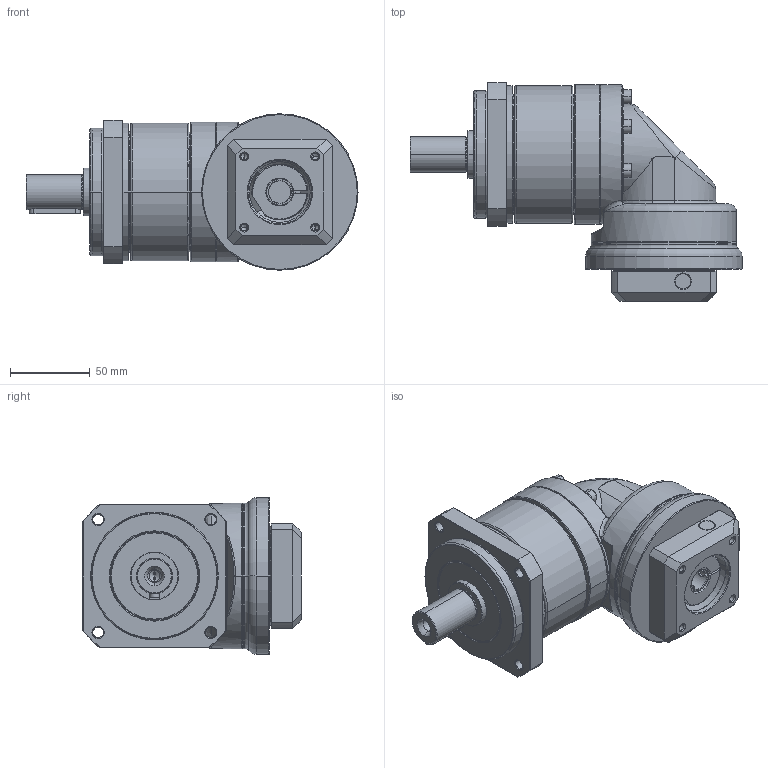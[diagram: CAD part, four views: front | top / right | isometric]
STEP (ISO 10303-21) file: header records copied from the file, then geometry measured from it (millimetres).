
FILE_DESCRIPTION((''),'2;1');
FILE_NAME('PA2R-090_1ST_14-P0411300101_ASM','2016-05-12T',('d01943'),(''),'PRO/ENGINEER BY PARAMETRIC TECHNOLOGY CORPORATION, 2008410','PRO/ENGINEER BY PARAMETRIC TECHNOLOGY CORPORATION, 2008410','');
FILE_SCHEMA(('CONFIG_CONTROL_DESIGN'));
Length unit declared in the file: millimetre
Products named in the file (12): P1327310001; P0250300001; P0350300001; P1349300001; P1017300001; P0713300001; P0503300005; P1350300001; P0411300101; P1702300001; 2111BA05025; PA2R-090_1ST_14-P0411300101_ASM
Assembly tree (16 placements, depth 2):
  PA2R-090_1ST_14-P0411300101_ASM
    P1327310001
    P0250300001
    P0350300001
    P1349300001
    P1017300001
    P0713300001
    P0503300005
    P1350300001
    P0411300101
    P1702300001
    2111BA05025  x6
Bounding box: 208 x 137 x 98 mm (x, y, z)
Volume: 700144.6 mm3; surface area: 181522.7 mm2
Topology: 16 solids, 16 shells, 817 faces, 1801 edges, 1042 vertices
Faces by surface type: cylinder 250, cone 238, plane 201, torus 96, bspline 32
Entity records: 23723 total; most frequent: CARTESIAN_POINT 9001, DIRECTION 3261, ORIENTED_EDGE 2850, EDGE_CURVE 1425, AXIS2_PLACEMENT_3D 1370, VERTEX_POINT 842, EDGE_LOOP 745, CIRCLE 722
